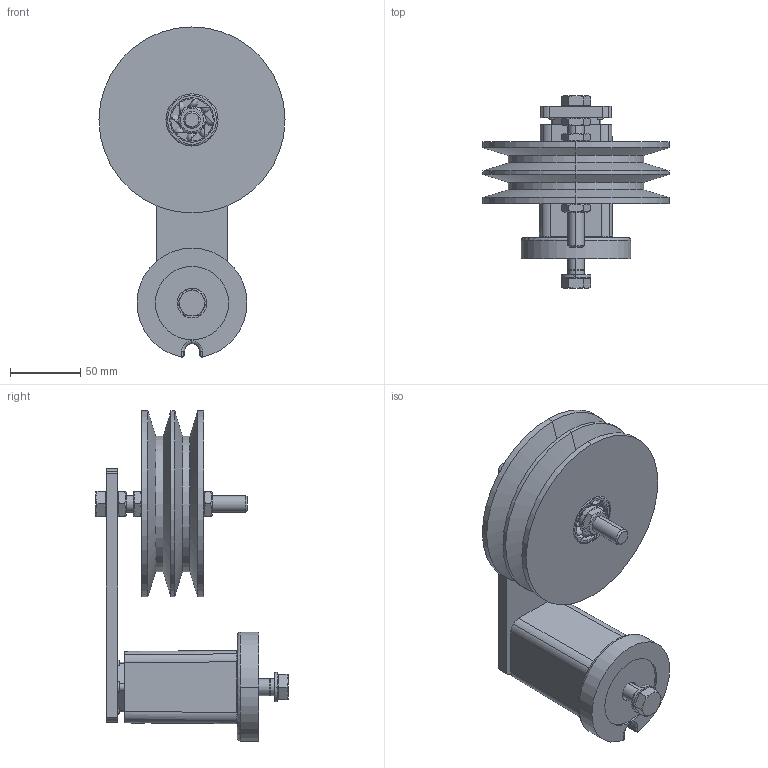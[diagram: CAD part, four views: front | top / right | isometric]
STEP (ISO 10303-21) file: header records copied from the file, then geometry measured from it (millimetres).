
FILE_DESCRIPTION((''),'2;1');
FILE_NAME('\\rostaofc\data\uw\save\daten_f\Normprogramm 3D\Spannelemente\KSE27-SPB2_06201008.stp','2004-09-28T11:23:02',('uw'),(''),'Autodesk Inventor 8','Autodesk Inventor 8','');
FILE_SCHEMA(('AUTOMOTIVE_DESIGN { 1 0 10303 214 1 1 1 1 }'));
Length unit declared in the file: millimetre
Products named in the file (17): ROSTA-Spannelement KSE 27 SPB 125-2; SE27; Spannelement-Gehäuse SE27; Gehäuse; Innenteil zu SE27; Hebel zu SE27 (m. 2- Loch); 3_10_6665-001; 3_10_6673-002; Sechskantschraube - M12 x 40; Federring - A12; SK3200-003; Keilriemenscheibe SPB 125-2 komplett; Keilriemenscheibe SPB 125-2 bearbeitet; C3; Distanzbüchse zu Keilriemenscheibe SPB 125-2; Sechskantmutter - M12; Sechskantschraube - M12 x 100
Assembly tree (22 placements, depth 4):
  ROSTA-Spannelement KSE 27 SPB 125-2
    SE27
      Spannelement-Gehäuse SE27
        Gehäuse
      Innenteil zu SE27
        Hebel zu SE27 (m. 2- Loch)
        3_10_6665-001
      3_10_6673-002  x4
      Sechskantschraube - M12 x 40
      Federring - A12
      SK3200-003
    Keilriemenscheibe SPB 125-2 komplett
      Keilriemenscheibe SPB 125-2 bearbeitet
      C3  x2
      Distanzbüchse zu Keilriemenscheibe SPB 125-2
    Sechskantmutter - M12  x3
    Sechskantschraube - M12 x 100
Bounding box: 132 x 136.5 x 234.28 mm (x, y, z)
Volume: 746003.3 mm3; surface area: 186098.4 mm2
Topology: 20 solids, 36 shells, 487 faces, 1232 edges, 701 vertices
Faces by surface type: cylinder 144, plane 136, bspline 90, cone 53, sphere 42, torus 22
Entity records: 11513 total; most frequent: CARTESIAN_POINT 2737, DIRECTION 1959, ORIENTED_EDGE 1668, EDGE_CURVE 834, AXIS2_PLACEMENT_3D 823, VERTEX_POINT 507, CIRCLE 440, EDGE_LOOP 408
